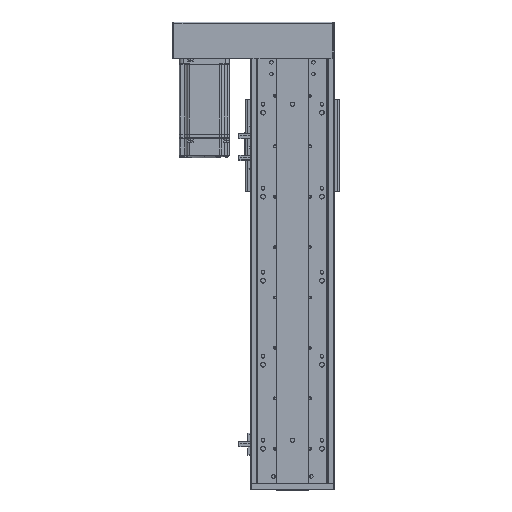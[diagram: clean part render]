
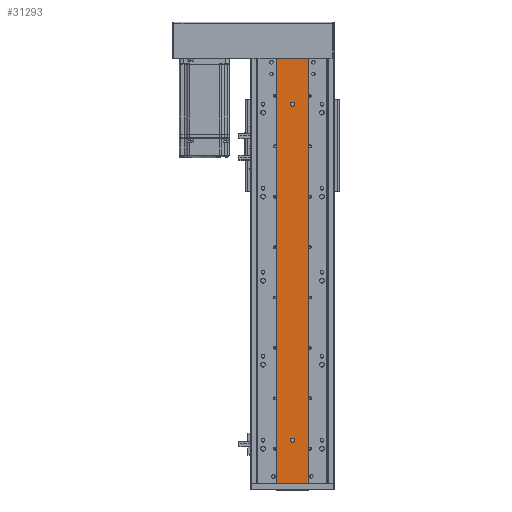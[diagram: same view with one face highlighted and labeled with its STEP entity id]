
A CAD part, top view. The second image highlights one B-rep face of the part: STEP entity #31293.
In plain terms, the highlighted planar face has unit normal (0, 0, 1).
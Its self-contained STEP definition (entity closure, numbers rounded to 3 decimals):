
#793 = CARTESIAN_POINT ( 'NONE',  ( -10626.079, 451., -17040.86 ) ) ;
#794 = DIRECTION ( 'NONE',  ( 0., 0., -1. ) ) ;
#795 = DIRECTION ( 'NONE',  ( -1., 0., 0. ) ) ;
#1512 = CIRCLE ( 'NONE', #43037, 2.5 ) ;
#1569 = CIRCLE ( 'NONE', #43033, 2.5 ) ;
#2199 = DIRECTION ( 'NONE',  ( 0., 0., -1. ) ) ;
#2209 = DIRECTION ( 'NONE',  ( -1., 0., 0. ) ) ;
#2222 = CARTESIAN_POINT ( 'NONE',  ( -10626.079, 51., -17040.86 ) ) ;
#8755 = AXIS2_PLACEMENT_3D ( 'NONE', #11694, #11718, #11720 ) ;
#9179 = AXIS2_PLACEMENT_3D ( 'NONE', #15872, #15896, #15889 ) ;
#9208 = AXIS2_PLACEMENT_3D ( 'NONE', #16150, #16154, #16165 ) ;
#10441 = FACE_BOUND ( 'NONE', #44693, .T. ) ;
#10451 = FACE_BOUND ( 'NONE', #44774, .T. ) ;
#10463 = FACE_OUTER_BOUND ( 'NONE', #44781, .T. ) ;
#11694 = CARTESIAN_POINT ( 'NONE',  ( -10645.079, 506., -17040.86 ) ) ;
#11704 = PLANE ( 'NONE',  #8755 ) ;
#11718 = DIRECTION ( 'NONE',  ( 0., 0., -1. ) ) ;
#11720 = DIRECTION ( 'NONE',  ( -1., 0., 0. ) ) ;
#12368 = CARTESIAN_POINT ( 'NONE',  ( -10607.079, 0., -17040.86 ) ) ;
#12389 = CARTESIAN_POINT ( 'NONE',  ( -10645.079, 0., -17040.86 ) ) ;
#12395 = CARTESIAN_POINT ( 'NONE',  ( -10607.079, 506., -17040.86 ) ) ;
#13100 = CARTESIAN_POINT ( 'NONE',  ( -10628.579, 51., -17040.86 ) ) ;
#13104 = CARTESIAN_POINT ( 'NONE',  ( -10623.579, 51., -17040.86 ) ) ;
#13138 = CARTESIAN_POINT ( 'NONE',  ( -10623.579, 451., -17040.86 ) ) ;
#13213 = CARTESIAN_POINT ( 'NONE',  ( -10628.579, 451., -17040.86 ) ) ;
#13746 = CARTESIAN_POINT ( 'NONE',  ( -10645.079, 506., -17040.86 ) ) ;
#14826 = VECTOR ( 'NONE', #15870, 1000. ) ;
#14834 = LINE ( 'NONE', #15891, #14826 ) ;
#14928 = CIRCLE ( 'NONE', #9179, 2.5 ) ;
#14948 = LINE ( 'NONE', #15990, #14978 ) ;
#14978 = VECTOR ( 'NONE', #15994, 1000. ) ;
#15012 = VECTOR ( 'NONE', #16069, 1000. ) ;
#15050 = VECTOR ( 'NONE', #16110, 1000. ) ;
#15054 = LINE ( 'NONE', #16119, #15050 ) ;
#15057 = CIRCLE ( 'NONE', #9208, 2.5 ) ;
#15062 = LINE ( 'NONE', #16081, #15012 ) ;
#15870 = DIRECTION ( 'NONE',  ( 1., 0., 0. ) ) ;
#15872 = CARTESIAN_POINT ( 'NONE',  ( -10626.079, 451., -17040.86 ) ) ;
#15889 = DIRECTION ( 'NONE',  ( -1., 0., 0. ) ) ;
#15891 = CARTESIAN_POINT ( 'NONE',  ( -10645.079, 506., -17040.86 ) ) ;
#15896 = DIRECTION ( 'NONE',  ( 0., 0., -1. ) ) ;
#15990 = CARTESIAN_POINT ( 'NONE',  ( -10645.079, 506., -17040.86 ) ) ;
#15994 = DIRECTION ( 'NONE',  ( 0., -1., 0. ) ) ;
#16069 = DIRECTION ( 'NONE',  ( 1., 0., 0. ) ) ;
#16081 = CARTESIAN_POINT ( 'NONE',  ( -10645.079, 0., -17040.86 ) ) ;
#16110 = DIRECTION ( 'NONE',  ( 0., -1., 0. ) ) ;
#16119 = CARTESIAN_POINT ( 'NONE',  ( -10607.079, 506., -17040.86 ) ) ;
#16150 = CARTESIAN_POINT ( 'NONE',  ( -10626.079, 51., -17040.86 ) ) ;
#16154 = DIRECTION ( 'NONE',  ( 0., 0., -1. ) ) ;
#16165 = DIRECTION ( 'NONE',  ( -1., 0., 0. ) ) ;
#29711 = EDGE_CURVE ( 'NONE', #31918, #32038, #1512, .T. ) ;
#29764 = EDGE_CURVE ( 'NONE', #31963, #31939, #1569, .T. ) ;
#31293 = ADVANCED_FACE ( 'NONE', ( #10451, #10441, #10463 ), #11704, .F. ) ;
#31918 = VERTEX_POINT ( 'NONE', #13138 ) ;
#31939 = VERTEX_POINT ( 'NONE', #13100 ) ;
#31963 = VERTEX_POINT ( 'NONE', #13104 ) ;
#32038 = VERTEX_POINT ( 'NONE', #13213 ) ;
#32442 = VERTEX_POINT ( 'NONE', #12368 ) ;
#32477 = VERTEX_POINT ( 'NONE', #12389 ) ;
#32483 = VERTEX_POINT ( 'NONE', #12395 ) ;
#32509 = VERTEX_POINT ( 'NONE', #13746 ) ;
#33684 = ORIENTED_EDGE ( 'NONE', *, *, #34495, .T. ) ;
#33697 = ORIENTED_EDGE ( 'NONE', *, *, #34527, .F. ) ;
#33701 = ORIENTED_EDGE ( 'NONE', *, *, #29764, .T. ) ;
#33703 = ORIENTED_EDGE ( 'NONE', *, *, #34551, .T. ) ;
#33714 = ORIENTED_EDGE ( 'NONE', *, *, #34411, .T. ) ;
#33731 = ORIENTED_EDGE ( 'NONE', *, *, #34322, .F. ) ;
#33742 = ORIENTED_EDGE ( 'NONE', *, *, #29711, .T. ) ;
#33744 = ORIENTED_EDGE ( 'NONE', *, *, #34328, .T. ) ;
#34322 = EDGE_CURVE ( 'NONE', #32509, #32483, #14834, .T. ) ;
#34328 = EDGE_CURVE ( 'NONE', #32038, #31918, #14928, .T. ) ;
#34411 = EDGE_CURVE ( 'NONE', #32509, #32477, #14948, .T. ) ;
#34495 = EDGE_CURVE ( 'NONE', #32477, #32442, #15062, .T. ) ;
#34527 = EDGE_CURVE ( 'NONE', #32483, #32442, #15054, .T. ) ;
#34551 = EDGE_CURVE ( 'NONE', #31939, #31963, #15057, .T. ) ;
#43033 = AXIS2_PLACEMENT_3D ( 'NONE', #2222, #2199, #2209 ) ;
#43037 = AXIS2_PLACEMENT_3D ( 'NONE', #793, #794, #795 ) ;
#44693 = EDGE_LOOP ( 'NONE', ( #33701, #33703 ) ) ;
#44774 = EDGE_LOOP ( 'NONE', ( #33742, #33744 ) ) ;
#44781 = EDGE_LOOP ( 'NONE', ( #33684, #33697, #33731, #33714 ) ) ;
